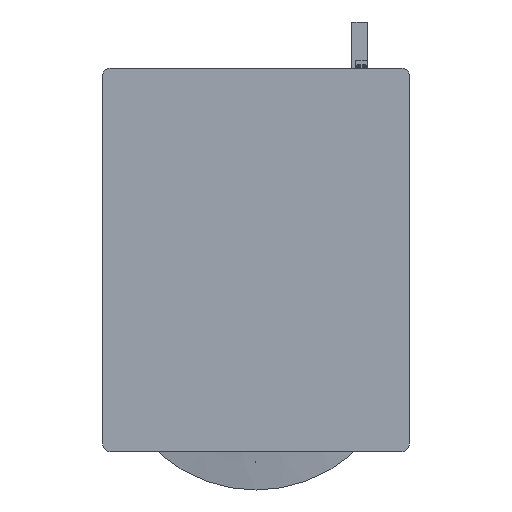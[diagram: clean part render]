
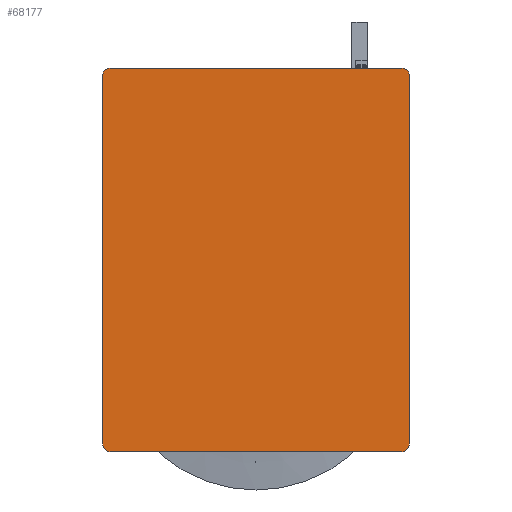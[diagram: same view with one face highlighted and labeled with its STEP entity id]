
A CAD part, front view. The second image highlights one B-rep face of the part: STEP entity #68177.
In plain terms, the highlighted planar face has unit normal (0, -1, 0).
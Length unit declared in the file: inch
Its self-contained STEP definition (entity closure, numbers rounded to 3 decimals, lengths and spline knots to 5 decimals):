
#4 = VERTEX_POINT ( 'NONE', #27452 ) ;
#1872 = VERTEX_POINT ( 'NONE', #38081 ) ;
#2046 = EDGE_CURVE ( 'NONE', #13161, #18216, #32709, .T. ) ;
#3271 = DIRECTION ( 'NONE',  ( 0., 0., 1. ) ) ;
#3336 = DIRECTION ( 'NONE',  ( 0., 0., 1. ) ) ;
#5655 = ORIENTED_EDGE ( 'NONE', *, *, #39701, .F. ) ;
#6019 = CIRCLE ( 'NONE', #35894, 1. ) ;
#6955 = DIRECTION ( 'NONE',  ( 0., -1., 0. ) ) ;
#6960 = CARTESIAN_POINT ( 'NONE',  ( -19., 0., 24. ) ) ;
#7996 = EDGE_LOOP ( 'NONE', ( #5655, #27868, #18185, #46862, #62075, #15466, #63184, #18758 ) ) ;
#8596 = AXIS2_PLACEMENT_3D ( 'NONE', #6960, #44381, #17657 ) ;
#8628 = CARTESIAN_POINT ( 'NONE',  ( -20., 0., -25. ) ) ;
#9086 = DIRECTION ( 'NONE',  ( 0., -1., 0. ) ) ;
#9498 = VERTEX_POINT ( 'NONE', #21075 ) ;
#9788 = DIRECTION ( 'NONE',  ( 1., 0., 0. ) ) ;
#9877 = DIRECTION ( 'NONE',  ( 0., 0., 1. ) ) ;
#10621 = DIRECTION ( 'NONE',  ( 0., 0., -1. ) ) ;
#11708 = CARTESIAN_POINT ( 'NONE',  ( -20., 0., -24. ) ) ;
#13161 = VERTEX_POINT ( 'NONE', #27050 ) ;
#13408 = AXIS2_PLACEMENT_3D ( 'NONE', #52221, #30664, #3336 ) ;
#13609 = CARTESIAN_POINT ( 'NONE',  ( -19., 0., -25. ) ) ;
#14287 = CARTESIAN_POINT ( 'NONE',  ( -20., 0., 24. ) ) ;
#15466 = ORIENTED_EDGE ( 'NONE', *, *, #56464, .T. ) ;
#15645 = EDGE_CURVE ( 'NONE', #35051, #35569, #46466, .T. ) ;
#17657 = DIRECTION ( 'NONE',  ( 0., 0., 1. ) ) ;
#18185 = ORIENTED_EDGE ( 'NONE', *, *, #15645, .F. ) ;
#18216 = VERTEX_POINT ( 'NONE', #14287 ) ;
#18758 = ORIENTED_EDGE ( 'NONE', *, *, #2046, .T. ) ;
#20590 = CARTESIAN_POINT ( 'NONE',  ( 19., 0., 24. ) ) ;
#21075 = CARTESIAN_POINT ( 'NONE',  ( 19., 0., 25. ) ) ;
#25160 = VECTOR ( 'NONE', #10621, 39.37008 ) ;
#25467 = PLANE ( 'NONE',  #13408 ) ;
#27050 = CARTESIAN_POINT ( 'NONE',  ( -19., 0., 25. ) ) ;
#27292 = CIRCLE ( 'NONE', #45562, 1. ) ;
#27452 = CARTESIAN_POINT ( 'NONE',  ( 20., 0., 24. ) ) ;
#27868 = ORIENTED_EDGE ( 'NONE', *, *, #41304, .T. ) ;
#27993 = AXIS2_PLACEMENT_3D ( 'NONE', #20590, #58088, #9877 ) ;
#29079 = CARTESIAN_POINT ( 'NONE',  ( -20., 0., -25. ) ) ;
#29560 = FACE_OUTER_BOUND ( 'NONE', #7996, .T. ) ;
#30143 = EDGE_CURVE ( 'NONE', #4, #1872, #68803, .T. ) ;
#30664 = DIRECTION ( 'NONE',  ( 0., 1., 0. ) ) ;
#32247 = VECTOR ( 'NONE', #55831, 39.37008 ) ;
#32709 = CIRCLE ( 'NONE', #8596, 1. ) ;
#33602 = CARTESIAN_POINT ( 'NONE',  ( -19., 0., -24. ) ) ;
#35051 = VERTEX_POINT ( 'NONE', #46395 ) ;
#35569 = VERTEX_POINT ( 'NONE', #13609 ) ;
#35752 = VECTOR ( 'NONE', #3271, 39.37008 ) ;
#35894 = AXIS2_PLACEMENT_3D ( 'NONE', #52143, #9086, #51687 ) ;
#37204 = EDGE_CURVE ( 'NONE', #35051, #1872, #6019, .T. ) ;
#38081 = CARTESIAN_POINT ( 'NONE',  ( 20., 0., -24. ) ) ;
#39701 = EDGE_CURVE ( 'NONE', #63122, #18216, #55095, .T. ) ;
#41304 = EDGE_CURVE ( 'NONE', #63122, #35569, #27292, .T. ) ;
#44381 = DIRECTION ( 'NONE',  ( 0., -1., 0. ) ) ;
#45562 = AXIS2_PLACEMENT_3D ( 'NONE', #33602, #6955, #54946 ) ;
#46395 = CARTESIAN_POINT ( 'NONE',  ( 19., 0., -25. ) ) ;
#46466 = LINE ( 'NONE', #29079, #32247 ) ;
#46862 = ORIENTED_EDGE ( 'NONE', *, *, #37204, .T. ) ;
#50913 = VECTOR ( 'NONE', #9788, 39.37008 ) ;
#51687 = DIRECTION ( 'NONE',  ( 0., 0., 1. ) ) ;
#52143 = CARTESIAN_POINT ( 'NONE',  ( 19., 0., -24. ) ) ;
#52221 = CARTESIAN_POINT ( 'NONE',  ( 0., 0., 0. ) ) ;
#53513 = EDGE_CURVE ( 'NONE', #13161, #9498, #56748, .T. ) ;
#54946 = DIRECTION ( 'NONE',  ( 0., 0., 1. ) ) ;
#55095 = LINE ( 'NONE', #8628, #35752 ) ;
#55831 = DIRECTION ( 'NONE',  ( -1., 0., 0. ) ) ;
#56464 = EDGE_CURVE ( 'NONE', #4, #9498, #59856, .T. ) ;
#56748 = LINE ( 'NONE', #57793, #50913 ) ;
#57793 = CARTESIAN_POINT ( 'NONE',  ( -20., 0., 25. ) ) ;
#58088 = DIRECTION ( 'NONE',  ( 0., -1., 0. ) ) ;
#58112 = CARTESIAN_POINT ( 'NONE',  ( 20., 0., -25. ) ) ;
#59856 = CIRCLE ( 'NONE', #27993, 1. ) ;
#62075 = ORIENTED_EDGE ( 'NONE', *, *, #30143, .F. ) ;
#63122 = VERTEX_POINT ( 'NONE', #11708 ) ;
#63184 = ORIENTED_EDGE ( 'NONE', *, *, #53513, .F. ) ;
#68177 = ADVANCED_FACE ( 'NONE', ( #29560 ), #25467, .F. ) ;
#68803 = LINE ( 'NONE', #58112, #25160 ) ;
